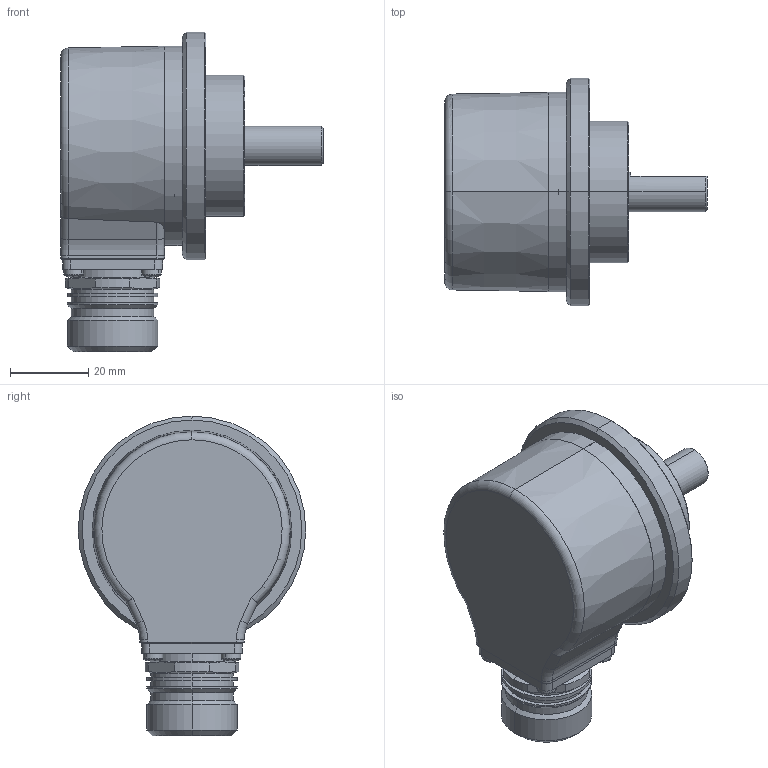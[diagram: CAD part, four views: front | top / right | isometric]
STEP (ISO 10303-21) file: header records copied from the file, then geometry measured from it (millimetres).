
FILE_DESCRIPTION (( 'STEP AP214' ), '1' );
FILE_NAME ('5000.83X8.XXXX.STEP', '2009-09-11T08:36:42', ( 'admin' ), ( 'Fritz Kübler GmbH' ), 'SwSTEP 2.0', 'SolidWorks 2009', '' );
FILE_SCHEMA (( 'AUTOMOTIVE_DESIGN' ));
Length unit declared in the file: millimetre
Products named in the file (1): 5000.83X8.XXXX
Bounding box: 67 x 58 x 81.5 mm (x, y, z)
Volume: 56837.9 mm3; surface area: 39259.3 mm2
Topology: 22 solids, 25 shells, 861 faces, 1961 edges, 1181 vertices
Faces by surface type: cylinder 360, plane 211, cone 137, torus 87, sphere 56, bspline 10
Entity records: 34483 total; most frequent: CARTESIAN_POINT 5136, DIRECTION 4559, ORIENTED_EDGE 3742, AXIS2_PLACEMENT_3D 1940, EDGE_CURVE 1871, VERTEX_POINT 1151, CIRCLE 1088, EDGE_LOOP 1018
